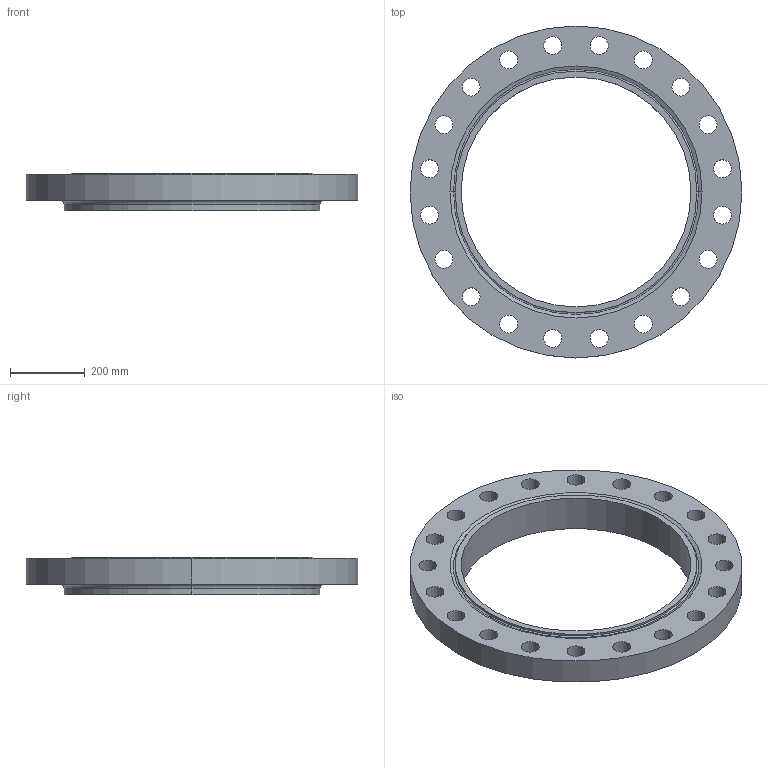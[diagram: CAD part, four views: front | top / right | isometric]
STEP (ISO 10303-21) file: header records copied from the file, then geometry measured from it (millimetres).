
FILE_DESCRIPTION (( 'STEP AP214' ), '1' );
FILE_NAME ('PN40 DN600 Type 12 - Type H Face.STEP', '2018-12-28T23:00:58', ( '' ), ( '' ), 'SwSTEP 2.0', 'SolidWorks 2019', '' );
FILE_SCHEMA (( 'AUTOMOTIVE_DESIGN' ));
Length unit declared in the file: millimetre
Products named in the file (1): PN40 DN600 Type 12 - Type H Face
Bounding box: 890 x 890 x 100 mm (x, y, z)
Volume: 21893917.4 mm3; surface area: 1234801.7 mm2
Topology: 1 solids, 1 shells, 58 faces, 156 edges, 102 vertices
Faces by surface type: cylinder 48, torus 4, plane 4, cone 2
Entity records: 1996 total; most frequent: DIRECTION 380, CARTESIAN_POINT 317, ORIENTED_EDGE 312, AXIS2_PLACEMENT_3D 165, EDGE_CURVE 156, CIRCLE 106, VERTEX_POINT 102, EDGE_LOOP 102
